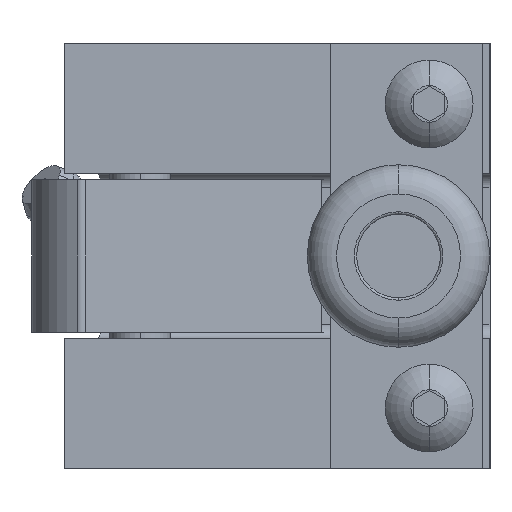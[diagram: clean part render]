
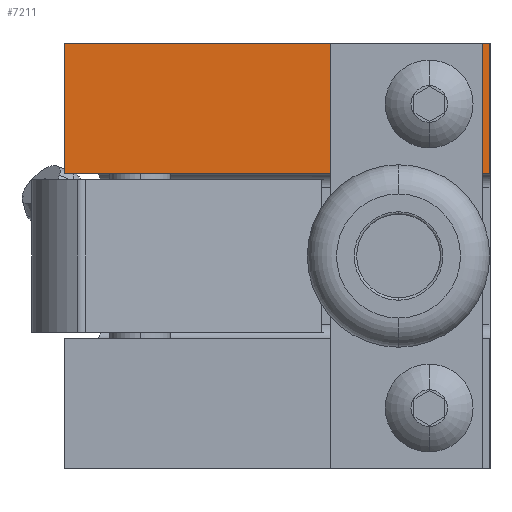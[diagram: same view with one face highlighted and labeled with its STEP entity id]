
A CAD part, left-side view. The second image highlights one B-rep face of the part: STEP entity #7211.
In plain terms, the highlighted planar face has unit normal (-1, 0, 0).
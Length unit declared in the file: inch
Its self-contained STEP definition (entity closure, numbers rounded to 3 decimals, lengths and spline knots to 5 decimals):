
#7066 = VERTEX_POINT ( 'NONE', #27468 ) ;
#7067 = EDGE_CURVE ( 'NONE', #7161, #7068, #27507, .T. ) ;
#7068 = VERTEX_POINT ( 'NONE', #27503 ) ;
#7069 = ORIENTED_EDGE ( 'NONE', *, *, #7070, .F. ) ;
#7070 = EDGE_CURVE ( 'NONE', #7088, #7068, #27488, .T. ) ;
#7071 = ORIENTED_EDGE ( 'NONE', *, *, #7150, .F. ) ;
#7088 = VERTEX_POINT ( 'NONE', #27523 ) ;
#7150 = EDGE_CURVE ( 'NONE', #7066, #7088, #27629, .T. ) ;
#7152 = ORIENTED_EDGE ( 'NONE', *, *, #7153, .F. ) ;
#7153 = EDGE_CURVE ( 'NONE', #7154, #7155, #27624, .T. ) ;
#7154 = VERTEX_POINT ( 'NONE', #27676 ) ;
#7155 = VERTEX_POINT ( 'NONE', #27675 ) ;
#7156 = ORIENTED_EDGE ( 'NONE', *, *, #7157, .F. ) ;
#7157 = EDGE_CURVE ( 'NONE', #7155, #7154, #27674, .T. ) ;
#7158 = EDGE_LOOP ( 'NONE', ( #7159, #7208, #7069, #7071 ) ) ;
#7159 = ORIENTED_EDGE ( 'NONE', *, *, #7160, .F. ) ;
#7160 = EDGE_CURVE ( 'NONE', #7161, #7066, #27669, .T. ) ;
#7161 = VERTEX_POINT ( 'NONE', #27665 ) ;
#7208 = ORIENTED_EDGE ( 'NONE', *, *, #7067, .T. ) ;
#7211 = ADVANCED_FACE ( 'NONE', ( #30064, #30063 ), #30044, .T. ) ;
#7212 = EDGE_LOOP ( 'NONE', ( #7152, #7156 ) ) ;
#27468 = CARTESIAN_POINT ( 'NONE',  ( -1.37552, 0.89805, 0.32461 ) ) ;
#27485 = DIRECTION ( 'NONE',  ( 0., -1., 0. ) ) ;
#27486 = VECTOR ( 'NONE', #27485, 39.37008 ) ;
#27487 = CARTESIAN_POINT ( 'NONE',  ( -1.37552, -0.85195, 0.85961 ) ) ;
#27488 = LINE ( 'NONE', #27487, #27486 ) ;
#27503 = CARTESIAN_POINT ( 'NONE',  ( -1.37552, -0.85195, 0.85961 ) ) ;
#27504 = DIRECTION ( 'NONE',  ( 0., 0., 1. ) ) ;
#27505 = VECTOR ( 'NONE', #27504, 39.37008 ) ;
#27506 = CARTESIAN_POINT ( 'NONE',  ( -1.37552, -0.85195, -0.89039 ) ) ;
#27507 = LINE ( 'NONE', #27506, #27505 ) ;
#27523 = CARTESIAN_POINT ( 'NONE',  ( -1.37552, 0.89805, 0.85961 ) ) ;
#27623 = AXIS2_PLACEMENT_3D ( 'NONE', #27679, #27678, #27677 ) ;
#27624 = CIRCLE ( 'NONE', #27623, 0.0935 ) ;
#27626 = DIRECTION ( 'NONE',  ( 0., 0., 1. ) ) ;
#27627 = VECTOR ( 'NONE', #27626, 39.37008 ) ;
#27628 = CARTESIAN_POINT ( 'NONE',  ( -1.37552, 0.89805, -0.89039 ) ) ;
#27629 = LINE ( 'NONE', #27628, #27627 ) ;
#27665 = CARTESIAN_POINT ( 'NONE',  ( -1.37552, -0.85195, 0.32461 ) ) ;
#27666 = DIRECTION ( 'NONE',  ( 0., 1., 0. ) ) ;
#27667 = VECTOR ( 'NONE', #27666, 39.37008 ) ;
#27668 = CARTESIAN_POINT ( 'NONE',  ( -1.37552, -0.85195, 0.32461 ) ) ;
#27669 = LINE ( 'NONE', #27668, #27667 ) ;
#27670 = DIRECTION ( 'NONE',  ( 0., 0., 1. ) ) ;
#27671 = DIRECTION ( 'NONE',  ( -1., 0., 0. ) ) ;
#27672 = CARTESIAN_POINT ( 'NONE',  ( -1.37552, -0.60195, 0.60961 ) ) ;
#27673 = AXIS2_PLACEMENT_3D ( 'NONE', #27672, #27671, #27670 ) ;
#27674 = CIRCLE ( 'NONE', #27673, 0.0935 ) ;
#27675 = CARTESIAN_POINT ( 'NONE',  ( -1.37552, -0.60195, 0.51611 ) ) ;
#27676 = CARTESIAN_POINT ( 'NONE',  ( -1.37552, -0.60195, 0.70311 ) ) ;
#27677 = DIRECTION ( 'NONE',  ( 0., 0., 1. ) ) ;
#27678 = DIRECTION ( 'NONE',  ( -1., 0., 0. ) ) ;
#27679 = CARTESIAN_POINT ( 'NONE',  ( -1.37552, -0.60195, 0.60961 ) ) ;
#30043 = AXIS2_PLACEMENT_3D ( 'NONE', #30097, #30096, #30095 ) ;
#30044 = PLANE ( 'NONE',  #30043 ) ;
#30063 = FACE_OUTER_BOUND ( 'NONE', #7158, .T. ) ;
#30064 = FACE_BOUND ( 'NONE', #7212, .T. ) ;
#30095 = DIRECTION ( 'NONE',  ( 0., 0., 1. ) ) ;
#30096 = DIRECTION ( 'NONE',  ( -1., 0., 0. ) ) ;
#30097 = CARTESIAN_POINT ( 'NONE',  ( -1.37552, -0.85195, -0.89039 ) ) ;
